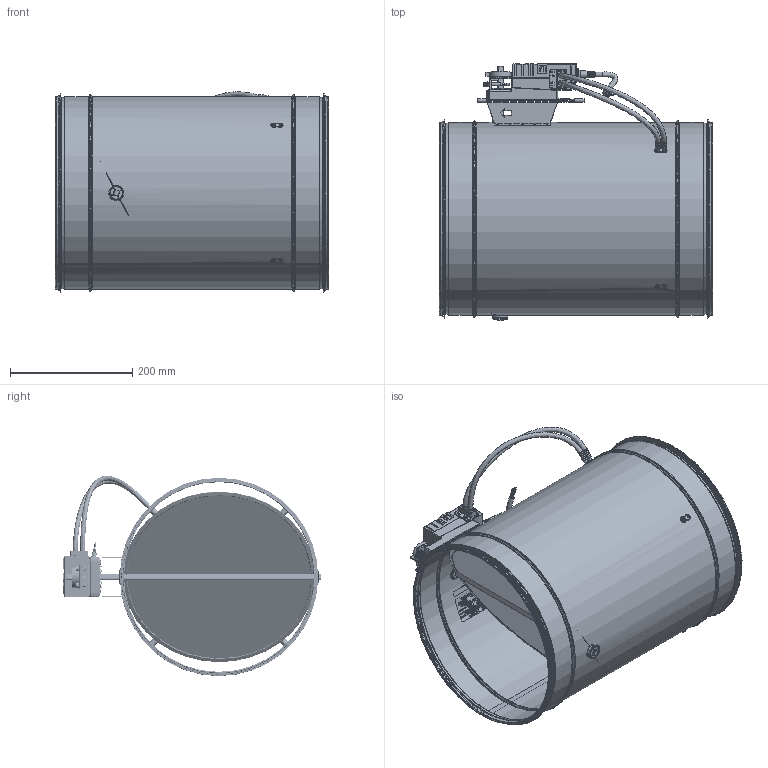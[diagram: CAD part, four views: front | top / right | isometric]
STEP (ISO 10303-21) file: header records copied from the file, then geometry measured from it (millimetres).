
FILE_DESCRIPTION (( 'STEP AP214' ), '1' );
FILE_NAME ('VAV-R315.STEP', '2025-03-06T12:20:57', ( '' ), ( '' ), 'SwSTEP 2.0', 'SolidWorks 2025', '' );
FILE_SCHEMA (( 'AUTOMOTIVE_DESIGN' ));
Length unit declared in the file: millimetre
Products named in the file (19): VSRV_Zapfen; LDE_DN315; Dichtungen; CROSS_DN315; BLECHSCHRAUBE; CROSS_PIECE; DB_DN315; VAV-R315; CROSS_WING315; Dichtung_innenxxx_x_x; Sicherungsscheibexxx_x_x; CROSS_PLUG; Abschlusskappexxx_x_x; KLAPPE315; LMV-D3-MP; BELIMO_MOTOR BRACKET_DN300-400; Dichtung_Vierkantxxx_x_x; Label VAVR315; Teil9^VAV-R315
Assembly tree (27 placements, depth 3):
  VAV-R315
    DB_DN315
    BELIMO_MOTOR BRACKET_DN300-400
    CROSS_DN315
      CROSS_PIECE
      CROSS_WING315  x4
      CROSS_PLUG  x3
      VSRV_Zapfen
    LDE_DN315  x2
    BLECHSCHRAUBE  x3
    LMV-D3-MP
    Dichtungen  x2
      Abschlusskappexxx_x_x
      Dichtung_innenxxx_x_x
      Dichtung_Vierkantxxx_x_x
      Sicherungsscheibexxx_x_x
    KLAPPE315
    Label VAVR315
    Teil9^VAV-R315
Bounding box: 447.79 x 421 x 327.88 mm (x, y, z)
Volume: 453950.7 mm3; surface area: 1382462.6 mm2
Topology: 30 solids, 48 shells, 6794 faces, 18411 edges, 12091 vertices
Faces by surface type: plane 3000, bspline 2511, cylinder 1029, torus 133, cone 91, sphere 30
Full cylindrical faces by diameter (mm): 1 x4, 1.911 x6, 2 x25, 2.5 x6, 3.5 x3, 4 x2, 5 x2, 5.5 x3, 6 x27, 7.5 x2, 8 x25, 11 x1, 16 x2, 20 x2, 21 x2, 21.422 x2, 23.5 x2, 25 x2, 310.845 x2, 311.74 x2, 312.4 x2, 314.14 x4, 315 x3, 324.74 x2
Entity records: 356480 total; most frequent: CARTESIAN_POINT 158525, ORIENTED_EDGE 34639, EDGE_CURVE 17341, DIRECTION 16013, VERTEX_POINT 11515, B_SPLINE_CURVE_WITH_KNOTS 11268, EDGE_LOOP 7189, FACE_OUTER_BOUND 6591
